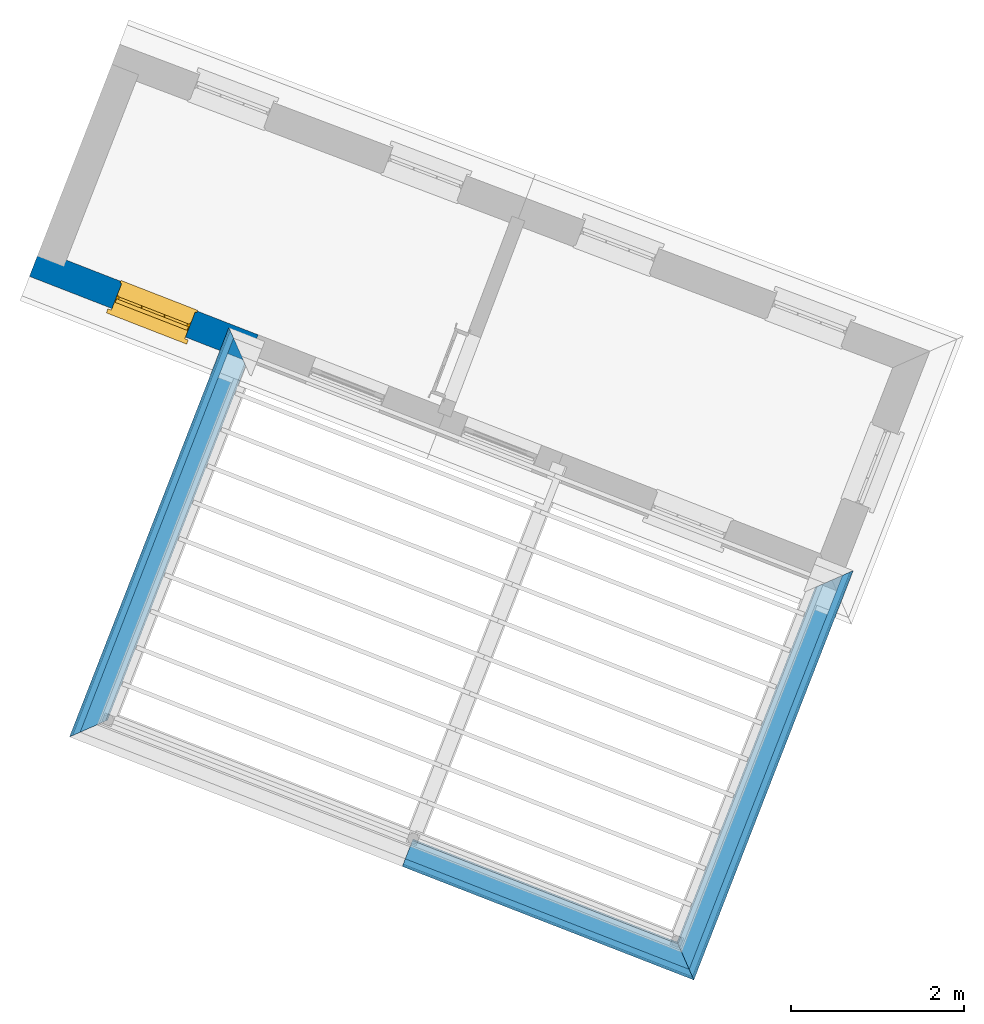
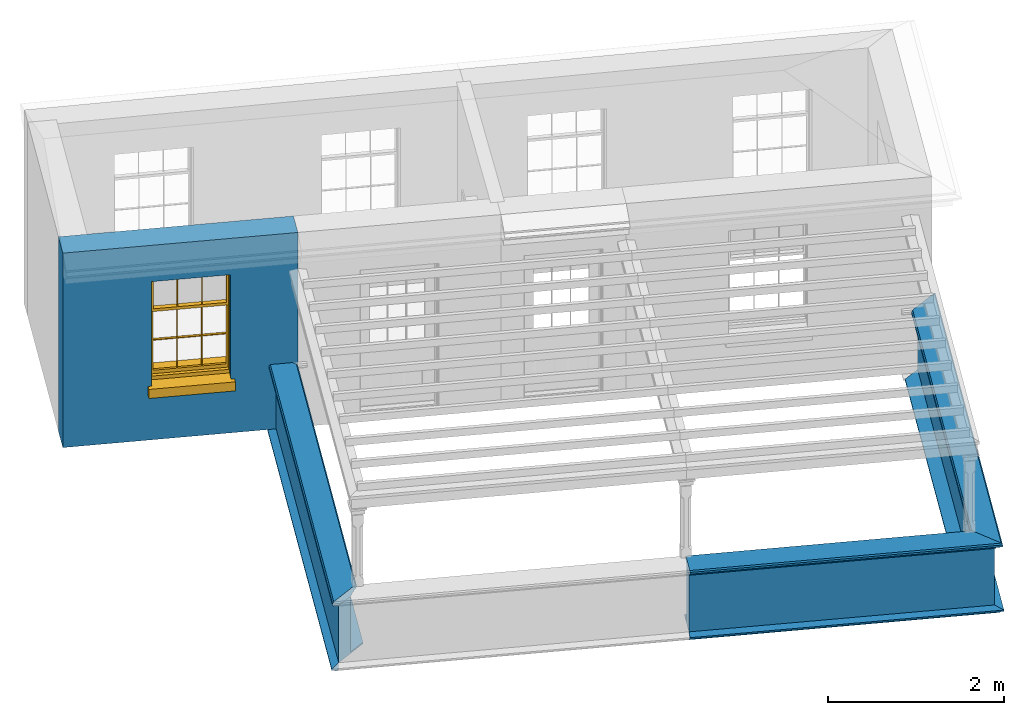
# One storey, part 2 of 5: 10 walls, 1 window, 1 opening.
"""IFC4 building model written with IfcOpenShell, lengths in metres."""

from ifc_helpers import new_model, si_unit, frame, origin, origin_with_axes, place, context, subcontext, project, spatial, polyline, outline, extrude, clip, halfspace, faceted_brep, source, transform, mapped, material, layer, layer_set, layer_usage, material_profile, profile_set, profile_usage, type_object, type_shapes, element, fill, save


model = new_model("IFC4")

# Units and contexts
model_context = context("Model", 3, world=origin_with_axes())
body_context = subcontext(model_context, "Body", "Model", "MODEL_VIEW")
ifc_project = project(units=[si_unit("PLANEANGLEUNIT", "RADIAN"), si_unit("MASSUNIT", "GRAM", prefix="KILO"), si_unit("FORCEUNIT", "NEWTON", prefix="KILO"), si_unit("LENGTHUNIT", "METRE"), si_unit("AREAUNIT", "SQUARE_METRE"), si_unit("VOLUMEUNIT", "CUBIC_METRE")], contexts=[model_context, model_context])

# Sites, building, storey
site_1_placement = place(None, origin_with_axes())
site_1 = spatial("IfcSite", under=ifc_project, at=site_1_placement, Name="Tamar")
site_2_placement = place(site_1_placement, origin_with_axes())
site_2 = spatial("IfcSite", under=site_1, at=site_2_placement, Name="Site plot-8", CompositionType="ELEMENT")
building_placement = place(None, origin_with_axes())
building = spatial("IfcBuilding", under=site_2, at=building_placement, Name="Building plot-8", CompositionType="ELEMENT")
storey_placement = place(None, frame((0.0, 0.0, 31.55), z_axis=(0.0, 0.0, 1.0), x_axis=(1.0, 0.0, 0.0)))
storey = spatial("IfcBuildingStorey", under=building, at=storey_placement, Name="plot-8 2", CompositionType="ELEMENT", Elevation=31.55)

# Wall, opening, window
ifc_material = material(Name="Masonry")
ifc_layer = layer(ifc_material, 0.33, ventilated=False)
ifc_layer_set = layer_set([ifc_layer], Name="exterior_0.08_0.25")
ifc_layer_usage = layer_usage(ifc_layer_set, "AXIS2", "POSITIVE", -0.25)
wall_type_1 = type_object("IfcWallType", Name="exterior_0.08_0.25", PredefinedType="SOLIDWALL", material=ifc_layer_set)
wall_1_placement = place(storey_placement, frame((221.692269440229, 310.215266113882, 0.0), z_axis=(0.0, 0.0, 1.0), x_axis=(0.93186385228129, -0.362808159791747, 0.0)))
wall_1 = element("IfcWall", 1, at=wall_1_placement, inside=storey, type_object=wall_type_1, material=ifc_layer_usage, Name="exterior", context=body_context, shape_type="SweptSolid", body=[
    extrude(outline(polyline([(-0.249999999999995, 0.0799999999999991), (-0.249999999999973, -0.250000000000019), (2.45498617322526, -0.250000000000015), (2.45498617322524, 0.0800000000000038), (-0.249999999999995, 0.0799999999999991)])), origin_with_axes(), (0.0, 0.0, 1.0), 2.7),
])
opening_placement = place(wall_1_placement, frame((0.772493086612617, 0.0, 0.749999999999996)))
opening = element("IfcOpeningElement", 2, at=opening_placement, cuts=wall_1, Name="My Opening", ObjectType="Opening", context=body_context, shape_type="SweptSolid", body=[
    extrude(outline(polyline([(0.0, -0.270000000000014), (0.91000000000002, -0.270000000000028), (0.910000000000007, 1.10000000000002), (-1.22124532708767e-14, 1.10000000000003), (0.0, -0.270000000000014)])), origin_with_axes(), (0.0, 0.0, 1.0), 1.445),
])
window_type = type_object("IfcWindowType", Name="sash_shorter", PartitioningType="DOUBLE_PANEL_HORIZONTAL", PredefinedType="NOTDEFINED")
shared_shape = source(origin(), body_context, "Body", "Brep", [
    faceted_brep([(0.876875, 0.145, 0.999097), (0.876875, 0.145, 1.411875), (0.9, 0.145, 1.435), (0.033125, 0.145, 1.411875), (0.033125, 0.145, 0.999097), (0.01, 0.145, 1.435), (0.033125, 0.115, 1.411875), (0.01, 0.115, 1.435), (0.033125, 0.115, 0.999097), (0.876875, 0.115, 1.411875), (0.876875, 0.115, 0.999097), (0.9, 0.115, 1.435), (0.033125, 0.145, 0.960972), (0.01, 0.145, 0.960972), (0.033125, 0.145, 0.548195), (0.876875, 0.145, 0.960972), (0.876875, 0.145, 0.548195), (0.9, 0.145, 0.960972), (0.876875, 0.145, 0.538195), (0.876875, 0.145, 0.125417), (0.9, 0.145, 0.077167), (0.033125, 0.145, 0.125417), (0.033125, 0.145, 0.538195), (0.01, 0.145, 0.077167), (0.9, 0.115, 0.960972), (0.01, 0.115, 0.960972), (-0.0425, 0.0, 0.01), (-0.0425, -0.05, 0.001667), (0.0, 0.0, 0.01), (0.9525, 0.0, 0.01), (0.91, 0.0, 0.01), (0.9525, -0.05, 0.001667), (-0.02, 0.33, 0.077167), (0.0, 0.33, 0.077167), (-0.02, 0.36, 0.077167), (0.0, 0.19, 0.077167), (0.01, 0.19, 0.077167), (0.91, 0.19, 0.077167), (0.91, 0.33, 0.077167), (0.9, 0.19, 0.077167), (0.93, 0.33, 0.077167), (0.93, 0.36, 0.077167), (0.01, 0.145, 0.999097), (0.01, 0.175, 0.999097), (0.9, 0.145, 0.999097), (0.9, 0.175, 0.999097), (0.876875, 0.175, 0.125417), (0.876875, 0.175, 0.538195), (0.9, 0.175, 0.077167), (0.876875, 0.175, 0.548195), (0.876875, 0.175, 0.960972), (0.033125, 0.175, 0.125417), (0.01, 0.175, 0.077167), (0.033125, 0.175, 0.538195), (0.033125, 0.175, 0.960972), (0.033125, 0.175, 0.548195), (-0.02, 0.33, 0.052167), (-0.02, 0.36, 0.052167), (0.93, 0.36, 0.052167), (0.93, 0.33, 0.052167), (0.91, 0.33, 0.052167), (0.0, 0.33, 0.052167), (0.91, 0.1, 0.026667), (0.0, 0.1, 0.026667), (-0.0425, -0.05, -0.123333), (0.9525, -0.05, -0.123333), (-0.0425, 0.0, -0.123333), (0.9525, 0.0, -0.123333), (0.01, 0.19, 1.435), (0.9, 0.19, 1.435), (0.0, 0.19, 1.445), (0.91, 0.19, 1.445), (0.01, 0.1, 0.077167), (0.9, 0.1, 0.077167), (0.592292, 0.145, 0.125417), (0.592292, 0.175, 0.125417), (0.317708, 0.175, 0.125417), (0.317708, 0.145, 0.125417), (0.592292, 0.145, 0.548195), (0.317708, 0.145, 0.548195), (0.317708, 0.145, 0.538195), (0.592292, 0.145, 0.538195), (0.592292, 0.175, 0.548195), (0.317708, 0.175, 0.548195), (0.602292, 0.175, 0.548195), (0.602292, 0.145, 0.548195), (0.317708, 0.175, 0.538195), (0.307708, 0.175, 0.125417), (0.307708, 0.175, 0.538195), (0.602292, 0.175, 0.538195), (0.602292, 0.175, 0.125417), (0.592292, 0.175, 0.538195), (0.307708, 0.175, 0.548195), (0.317708, 0.175, 0.960972), (0.307708, 0.175, 0.960972), (0.602292, 0.175, 0.960972), (0.592292, 0.175, 0.960972), (0.307708, 0.145, 0.538195), (0.307708, 0.145, 0.125417), (0.307708, 0.145, 0.548195), (0.307708, 0.145, 0.960972), (0.592292, 0.145, 0.960972), (0.317708, 0.145, 0.960972), (0.602292, 0.145, 0.960972), (0.602292, 0.145, 0.538195), (0.602292, 0.145, 0.125417), (0.317708, 0.115, 1.411875), (0.307708, 0.115, 1.411875), (0.307708, 0.115, 0.999097), (0.317708, 0.115, 0.999097), (0.602292, 0.115, 1.411875), (0.592292, 0.115, 1.411875), (0.592292, 0.115, 0.999097), (0.602292, 0.115, 0.999097), (0.317708, 0.145, 0.999097), (0.307708, 0.145, 0.999097), (0.307708, 0.145, 1.411875), (0.317708, 0.145, 1.411875), (0.602292, 0.145, 0.999097), (0.592292, 0.145, 0.999097), (0.592292, 0.145, 1.411875), (0.602292, 0.145, 1.411875), (0.91, 0.1, 1.445), (0.9, 0.1, 1.435), (0.01, 0.1, 1.435), (0.0, 0.1, 1.445), (0.91, 0.0, 0.0), (0.0, 0.0, 0.0), (0.91, 0.33, 0.0), (0.0, 0.33, 0.0)], [[[0, 1, 2]], [[3, 4, 5]], [[6, 7, 8]], [[9, 10, 11]], [[12, 13, 14]], [[15, 16, 17]], [[18, 19, 20]], [[21, 22, 23]], [[24, 15, 17]], [[13, 12, 25]], [[26, 27, 28]], [[29, 30, 31]], [[32, 33, 34]], [[35, 36, 33]], [[37, 38, 39]], [[40, 41, 38]], [[42, 4, 43]], [[44, 45, 0]], [[46, 47, 48]], [[49, 50, 45]], [[51, 52, 53]], [[54, 55, 43]], [[38, 33, 36, 39]], [[41, 34, 33, 38]], [[56, 32, 34, 57]], [[57, 34, 41, 58]], [[58, 41, 40, 59]], [[57, 58, 60, 61]], [[52, 48, 39, 36]], [[62, 63, 28, 30]], [[27, 31, 30, 28]], [[27, 64, 65, 31]], [[66, 67, 65, 64]], [[2, 5, 68, 69]], [[68, 70, 71, 69]], [[20, 23, 72, 73]], [[73, 72, 63, 62]], [[74, 75, 76, 77]], [[78, 79, 80, 81]], [[78, 82, 83, 79]], [[16, 49, 84, 85]], [[86, 76, 87, 88]], [[89, 90, 75, 91]], [[92, 88, 53, 55]], [[82, 91, 86, 83]], [[93, 83, 92, 94]], [[95, 84, 82, 96]], [[89, 84, 49, 47]], [[97, 88, 87, 98]], [[22, 53, 88, 97]], [[81, 91, 75, 74]], [[80, 86, 91, 81]], [[77, 76, 86, 80]], [[99, 92, 55, 14]], [[100, 94, 92, 99]], [[101, 96, 82, 78]], [[79, 83, 93, 102]], [[85, 84, 95, 103]], [[104, 89, 47, 18]], [[105, 90, 89, 104]], [[104, 18, 16, 85]], [[80, 97, 98, 77]], [[104, 81, 74, 105]], [[103, 101, 78, 85]], [[99, 14, 22, 97]], [[102, 100, 99, 79]], [[106, 107, 108, 109]], [[110, 111, 112, 113]], [[114, 115, 116, 117]], [[118, 119, 120, 121]], [[107, 116, 115, 108]], [[111, 120, 119, 112]], [[109, 114, 117, 106]], [[113, 118, 121, 110]], [[85, 78, 81, 104]], [[84, 89, 91, 82]], [[83, 86, 88, 92]], [[79, 99, 97, 80]], [[109, 112, 119, 114]], [[102, 93, 96, 101]], [[106, 117, 120, 111]], [[98, 87, 51, 21]], [[6, 3, 116, 107]], [[110, 121, 1, 9]], [[19, 46, 90, 105]], [[26, 66, 64, 27]], [[29, 31, 65, 67]], [[25, 24, 112, 109]], [[11, 7, 106, 111]], [[75, 48, 52, 76]], [[43, 45, 96, 93]], [[45, 43, 114, 119]], [[5, 2, 120, 117]], [[24, 25, 102, 101]], [[42, 5, 4]], [[2, 44, 0]], [[49, 45, 48, 47]], [[52, 43, 55, 53]], [[14, 13, 23, 22]], [[20, 17, 16, 18]], [[24, 11, 10]], [[25, 8, 7]], [[8, 4, 3, 6]], [[9, 1, 0, 10]], [[15, 50, 49, 16]], [[18, 47, 46, 19]], [[21, 51, 53, 22]], [[14, 55, 54, 12]], [[44, 2, 69, 45]], [[68, 5, 42, 43]], [[36, 35, 70, 68]], [[39, 69, 71, 37]], [[62, 122, 123, 73]], [[63, 72, 124, 125]], [[8, 108, 115, 4]], [[113, 10, 0, 118]], [[94, 100, 12, 54]], [[17, 20, 73, 24]], [[72, 23, 13, 25]], [[52, 36, 68, 43]], [[69, 39, 48, 45]], [[11, 24, 73, 123]], [[7, 124, 72, 25]], [[23, 77, 98]], [[98, 21, 23]], [[105, 74, 20]], [[20, 19, 105]], [[20, 74, 77, 23]], [[113, 112, 24]], [[24, 10, 113]], [[25, 109, 108]], [[108, 8, 25]], [[110, 9, 11]], [[11, 111, 110]], [[7, 6, 107]], [[107, 106, 7]], [[5, 117, 116]], [[116, 3, 5]], [[121, 120, 2]], [[2, 1, 121]], [[11, 123, 124, 7]], [[122, 125, 124, 123]], [[43, 93, 94]], [[94, 54, 43]], [[96, 45, 95]], [[50, 95, 45]], [[15, 103, 95, 50]], [[48, 75, 90]], [[90, 46, 48]], [[87, 76, 52]], [[52, 51, 87]], [[103, 15, 24]], [[24, 101, 103]], [[100, 102, 25]], [[25, 12, 100]], [[115, 114, 43]], [[43, 4, 115]], [[118, 0, 45]], [[45, 119, 118]], [[71, 70, 125, 122]], [[70, 35, 63, 125]], [[122, 62, 37, 71]], [[126, 67, 66, 127]], [[60, 58, 59]], [[38, 60, 59, 40]], [[61, 56, 57]], [[32, 56, 61, 33]], [[61, 60, 128, 129]], [[62, 60, 38, 37]], [[126, 128, 60, 62]], [[33, 61, 63, 35]], [[61, 129, 127, 63]], [[128, 126, 127, 129]], [[28, 127, 66, 26]], [[63, 127, 28]], [[29, 67, 126, 30]], [[30, 126, 62]]]),
])
type_shapes(window_type, [shared_shape])
window_placement = place(storey_placement, frame((222.314169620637, 309.68339607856, 0.749999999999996), z_axis=(0.0, 0.0, 1.0), x_axis=(0.847996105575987, -0.33015542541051, 0.0)))
window = element("IfcWindow", 3, at=window_placement, inside=storey, type_object=window_type, Name="bedroom outside window", OverallHeight=1.445, OverallWidth=0.91, context=body_context, shape_type="MappedRepresentation", body=[
    mapped(shared_shape, transform((0.0, 0.0, 0.0), scale=1.0)),
])
fill(opening, window)

# Walls
ifc_material_profile_1 = material_profile(None, outline(polyline([(0.25, 0.0), (0.25, 0.795), (0.09, 0.795), (0.09, 0.02), (-0.08, 0.02), (-0.08, 0.0), (0.25, 0.0)])))
ifc_profile_set_1 = profile_set([ifc_material_profile_1])
ifc_profile_usage_1 = profile_usage(ifc_profile_set_1)
wall_type_2 = type_object("IfcWallType", Name="parapet_0", PredefinedType="PARAPET", material=ifc_profile_set_1)
wall_2_placement = place(storey_placement, frame((221.915095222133, 304.02096529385, 0.0), z_axis=(0.362808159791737, 0.931863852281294, 0.0), x_axis=(-0.931863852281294, 0.362808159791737, 0.0)))
element("IfcWall", 4, at=wall_2_placement, inside=storey, type_object=wall_type_2, material=ifc_profile_usage_1, Name="parapet_0", context=body_context, shape_type="Clipping", body=[
    clip(clip(extrude(outline(polyline([(0.25, 0.0), (0.25, 0.795), (0.09, 0.795), (0.09, 0.02), (-0.08, 0.02), (-0.08, 0.0), (0.25, 0.0)])), origin_with_axes(), (0.0, 0.0, 1.0), 6.38140201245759), halfspace(frame((0.0, 0.0, 5.38140201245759), z_axis=(0.707106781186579, 0.0, -0.707106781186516), x_axis=(0.0, 1.0, 0.0)), True)), halfspace(frame((0.0, 0.0, 1.0), z_axis=(-0.707106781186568, 0.0, -0.707106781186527), x_axis=(0.0, 1.0, 0.0)), False)),
])
ifc_profile_usage_2 = profile_usage(ifc_profile_set_1)
wall_3_placement = place(storey_placement, frame((229.774760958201, 302.03403248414, 0.0), z_axis=(-0.93186385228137, 0.362808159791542, 0.0), x_axis=(-0.362808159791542, -0.93186385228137, 0.0)))
element("IfcWall", 5, at=wall_3_placement, inside=storey, type_object=wall_type_2, material=ifc_profile_usage_2, Name="parapet_0", context=body_context, shape_type="Clipping", body=[
    clip(clip(extrude(outline(polyline([(0.25, 0.0), (0.25, 0.795), (0.09, 0.795), (0.09, 0.02), (-0.08, 0.02), (-0.08, 0.0), (0.25, 0.0)])), origin_with_axes(), (0.0, 0.0, 1.0), 5.26698581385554), halfspace(frame((0.0, 0.0, 4.26698581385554), z_axis=(1.00302929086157e-13, 0.0, -1.0), x_axis=(0.0, 1.0, 0.0)), True)), halfspace(frame((0.0, 0.0, 1.0), z_axis=(-0.70710678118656, 0.0, -0.707106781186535), x_axis=(0.0, 1.0, 0.0)), False)),
])
ifc_profile_usage_3 = profile_usage(ifc_profile_set_1)
wall_4_placement = place(storey_placement, frame((230.795313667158, 307.411574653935, 0.0), z_axis=(-0.362808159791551, -0.931863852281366, 0.0), x_axis=(0.931863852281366, -0.362808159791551, 0.0)))
element("IfcWall", 6, at=wall_4_placement, inside=storey, type_object=wall_type_2, material=ifc_profile_usage_3, Name="parapet_0", context=body_context, shape_type="Clipping", body=[
    clip(clip(extrude(outline(polyline([(0.25, 0.0), (0.25, 0.795), (0.09, 0.795), (0.09, 0.02), (-0.08, 0.02), (-0.08, 0.0), (0.25, 0.0)])), origin_with_axes(), (0.0, 0.0, 1.0), 6.38140201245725), halfspace(frame((0.0, 0.0, 5.38140201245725), z_axis=(0.707106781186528, 0.0, -0.707106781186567), x_axis=(0.0, 1.0, 0.0)), True)), halfspace(frame((0.0, 0.0, 1.0), z_axis=(-0.707106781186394, 0.0, -0.707106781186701), x_axis=(0.0, 1.0, 0.0)), False)),
])
ifc_material_profile_2 = material_profile(None, outline(polyline([(0.265, 0.795), (0.268, 0.807), (0.274, 0.816), (0.283, 0.822), (0.295, 0.825), (0.295, 0.84), (0.305, 0.84), (0.317, 0.842), (0.326, 0.849), (0.333, 0.858), (0.335, 0.87), (0.333, 0.882), (0.326, 0.891), (0.317, 0.898), (0.305, 0.9), (0.035, 0.9), (0.023, 0.898), (0.014, 0.891), (0.007, 0.882), (0.005, 0.87), (0.007, 0.858), (0.014, 0.849), (0.023, 0.842), (0.035, 0.84), (0.045, 0.84), (0.045, 0.825), (0.057, 0.822), (0.066, 0.816), (0.072, 0.807), (0.075, 0.795), (0.265, 0.795)])))
ifc_profile_set_2 = profile_set([ifc_material_profile_2])
ifc_profile_usage_4 = profile_usage(ifc_profile_set_2)
wall_type_3 = type_object("IfcWallType", Name="parapet_1", PredefinedType="PARAPET", material=ifc_profile_set_2)
wall_5_placement = place(storey_placement, frame((221.915095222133, 304.02096529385, 0.0), z_axis=(0.362808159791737, 0.931863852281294, 0.0), x_axis=(-0.931863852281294, 0.362808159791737, 0.0)))
element("IfcWall", 7, at=wall_5_placement, inside=storey, type_object=wall_type_3, material=ifc_profile_usage_4, Name="parapet_1", context=body_context, shape_type="Clipping", body=[
    clip(clip(extrude(outline(polyline([(0.265, 0.795), (0.268, 0.807), (0.274, 0.816), (0.283, 0.822), (0.295, 0.825), (0.295, 0.84), (0.305, 0.84), (0.317, 0.842), (0.326, 0.849), (0.333, 0.858), (0.335, 0.87), (0.333, 0.882), (0.326, 0.891), (0.317, 0.898), (0.305, 0.9), (0.035, 0.9), (0.023, 0.898), (0.014, 0.891), (0.007, 0.882), (0.005, 0.87), (0.007, 0.858), (0.014, 0.849), (0.023, 0.842), (0.035, 0.84), (0.045, 0.84), (0.045, 0.825), (0.057, 0.822), (0.066, 0.816), (0.072, 0.807), (0.075, 0.795), (0.265, 0.795)])), origin_with_axes(), (0.0, 0.0, 1.0), 6.38140201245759), halfspace(frame((0.0, 0.0, 5.38140201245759), z_axis=(0.707106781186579, 0.0, -0.707106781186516), x_axis=(0.0, 1.0, 0.0)), True)), halfspace(frame((0.0, 0.0, 1.0), z_axis=(-0.707106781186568, 0.0, -0.707106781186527), x_axis=(0.0, 1.0, 0.0)), False)),
])
ifc_profile_usage_5 = profile_usage(ifc_profile_set_2)
wall_6_placement = place(storey_placement, frame((229.774760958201, 302.03403248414, 0.0), z_axis=(-0.93186385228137, 0.362808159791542, 0.0), x_axis=(-0.362808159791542, -0.93186385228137, 0.0)))
element("IfcWall", 8, at=wall_6_placement, inside=storey, type_object=wall_type_3, material=ifc_profile_usage_5, Name="parapet_1", context=body_context, shape_type="Clipping", body=[
    clip(clip(extrude(outline(polyline([(0.265, 0.795), (0.268, 0.807), (0.274, 0.816), (0.283, 0.822), (0.295, 0.825), (0.295, 0.84), (0.305, 0.84), (0.317, 0.842), (0.326, 0.849), (0.333, 0.858), (0.335, 0.87), (0.333, 0.882), (0.326, 0.891), (0.317, 0.898), (0.305, 0.9), (0.035, 0.9), (0.023, 0.898), (0.014, 0.891), (0.007, 0.882), (0.005, 0.87), (0.007, 0.858), (0.014, 0.849), (0.023, 0.842), (0.035, 0.84), (0.045, 0.84), (0.045, 0.825), (0.057, 0.822), (0.066, 0.816), (0.072, 0.807), (0.075, 0.795), (0.265, 0.795)])), origin_with_axes(), (0.0, 0.0, 1.0), 5.26698581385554), halfspace(frame((0.0, 0.0, 4.26698581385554), z_axis=(1.00302929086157e-13, 0.0, -1.0), x_axis=(0.0, 1.0, 0.0)), True)), halfspace(frame((0.0, 0.0, 1.0), z_axis=(-0.70710678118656, 0.0, -0.707106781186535), x_axis=(0.0, 1.0, 0.0)), False)),
])
ifc_profile_usage_6 = profile_usage(ifc_profile_set_2)
wall_7_placement = place(storey_placement, frame((230.795313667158, 307.411574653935, 0.0), z_axis=(-0.362808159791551, -0.931863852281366, 0.0), x_axis=(0.931863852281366, -0.362808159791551, 0.0)))
element("IfcWall", 9, at=wall_7_placement, inside=storey, type_object=wall_type_3, material=ifc_profile_usage_6, Name="parapet_1", context=body_context, shape_type="Clipping", body=[
    clip(clip(extrude(outline(polyline([(0.265, 0.795), (0.268, 0.807), (0.274, 0.816), (0.283, 0.822), (0.295, 0.825), (0.295, 0.84), (0.305, 0.84), (0.317, 0.842), (0.326, 0.849), (0.333, 0.858), (0.335, 0.87), (0.333, 0.882), (0.326, 0.891), (0.317, 0.898), (0.305, 0.9), (0.035, 0.9), (0.023, 0.898), (0.014, 0.891), (0.007, 0.882), (0.005, 0.87), (0.007, 0.858), (0.014, 0.849), (0.023, 0.842), (0.035, 0.84), (0.045, 0.84), (0.045, 0.825), (0.057, 0.822), (0.066, 0.816), (0.072, 0.807), (0.075, 0.795), (0.265, 0.795)])), origin_with_axes(), (0.0, 0.0, 1.0), 6.38140201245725), halfspace(frame((0.0, 0.0, 5.38140201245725), z_axis=(0.707106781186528, 0.0, -0.707106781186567), x_axis=(0.0, 1.0, 0.0)), True)), halfspace(frame((0.0, 0.0, 1.0), z_axis=(-0.707106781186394, 0.0, -0.707106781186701), x_axis=(0.0, 1.0, 0.0)), False)),
])
ifc_material_profile_3 = material_profile(None, outline(polyline([(0.25, -0.1), (0.265, -0.1), (0.265, -0.085), (0.278, -0.084), (0.289, -0.081), (0.301, -0.074), (0.309, -0.065), (0.315, -0.055), (0.324, -0.044), (0.334, -0.038), (0.345, -0.035), (0.345, -0.015), (0.25, 0.0), (0.25, -0.1)])))
ifc_profile_set_3 = profile_set([ifc_material_profile_3])
ifc_profile_usage_7 = profile_usage(ifc_profile_set_3)
wall_type_4 = type_object("IfcWallType", Name="parapet_2", PredefinedType="PARAPET", material=ifc_profile_set_3)
wall_8_placement = place(storey_placement, frame((221.915095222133, 304.02096529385, 0.0), z_axis=(0.362808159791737, 0.931863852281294, 0.0), x_axis=(-0.931863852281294, 0.362808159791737, 0.0)))
element("IfcWall", 10, at=wall_8_placement, inside=storey, type_object=wall_type_4, material=ifc_profile_usage_7, Name="parapet_2", context=body_context, shape_type="Clipping", body=[
    clip(clip(extrude(outline(polyline([(0.25, -0.1), (0.265, -0.1), (0.265, -0.085), (0.278, -0.084), (0.289, -0.081), (0.301, -0.074), (0.309, -0.065), (0.315, -0.055), (0.324, -0.044), (0.334, -0.038), (0.345, -0.035), (0.345, -0.015), (0.25, 0.0), (0.25, -0.1)])), origin_with_axes(), (0.0, 0.0, 1.0), 6.38140201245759), halfspace(frame((0.0, 0.0, 5.38140201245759), z_axis=(0.707106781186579, 0.0, -0.707106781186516), x_axis=(0.0, 1.0, 0.0)), True)), halfspace(frame((0.0, 0.0, 1.0), z_axis=(-0.707106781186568, 0.0, -0.707106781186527), x_axis=(0.0, 1.0, 0.0)), False)),
])
ifc_profile_usage_8 = profile_usage(ifc_profile_set_3)
wall_9_placement = place(storey_placement, frame((229.774760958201, 302.03403248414, 0.0), z_axis=(-0.93186385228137, 0.362808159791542, 0.0), x_axis=(-0.362808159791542, -0.93186385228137, 0.0)))
element("IfcWall", 11, at=wall_9_placement, inside=storey, type_object=wall_type_4, material=ifc_profile_usage_8, Name="parapet_2", context=body_context, shape_type="Clipping", body=[
    clip(clip(extrude(outline(polyline([(0.25, -0.1), (0.265, -0.1), (0.265, -0.085), (0.278, -0.084), (0.289, -0.081), (0.301, -0.074), (0.309, -0.065), (0.315, -0.055), (0.324, -0.044), (0.334, -0.038), (0.345, -0.035), (0.345, -0.015), (0.25, 0.0), (0.25, -0.1)])), origin_with_axes(), (0.0, 0.0, 1.0), 5.26698581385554), halfspace(frame((0.0, 0.0, 4.26698581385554), z_axis=(1.00302929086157e-13, 0.0, -1.0), x_axis=(0.0, 1.0, 0.0)), True)), halfspace(frame((0.0, 0.0, 1.0), z_axis=(-0.70710678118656, 0.0, -0.707106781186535), x_axis=(0.0, 1.0, 0.0)), False)),
])
ifc_profile_usage_9 = profile_usage(ifc_profile_set_3)
wall_10_placement = place(storey_placement, frame((230.795313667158, 307.411574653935, 0.0), z_axis=(-0.362808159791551, -0.931863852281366, 0.0), x_axis=(0.931863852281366, -0.362808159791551, 0.0)))
element("IfcWall", 12, at=wall_10_placement, inside=storey, type_object=wall_type_4, material=ifc_profile_usage_9, Name="parapet_2", context=body_context, shape_type="Clipping", body=[
    clip(clip(extrude(outline(polyline([(0.25, -0.1), (0.265, -0.1), (0.265, -0.085), (0.278, -0.084), (0.289, -0.081), (0.301, -0.074), (0.309, -0.065), (0.315, -0.055), (0.324, -0.044), (0.334, -0.038), (0.345, -0.035), (0.345, -0.015), (0.25, 0.0), (0.25, -0.1)])), origin_with_axes(), (0.0, 0.0, 1.0), 6.38140201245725), halfspace(frame((0.0, 0.0, 5.38140201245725), z_axis=(0.707106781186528, 0.0, -0.707106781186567), x_axis=(0.0, 1.0, 0.0)), True)), halfspace(frame((0.0, 0.0, 1.0), z_axis=(-0.707106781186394, 0.0, -0.707106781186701), x_axis=(0.0, 1.0, 0.0)), False)),
])

save(model, "model.ifc")
